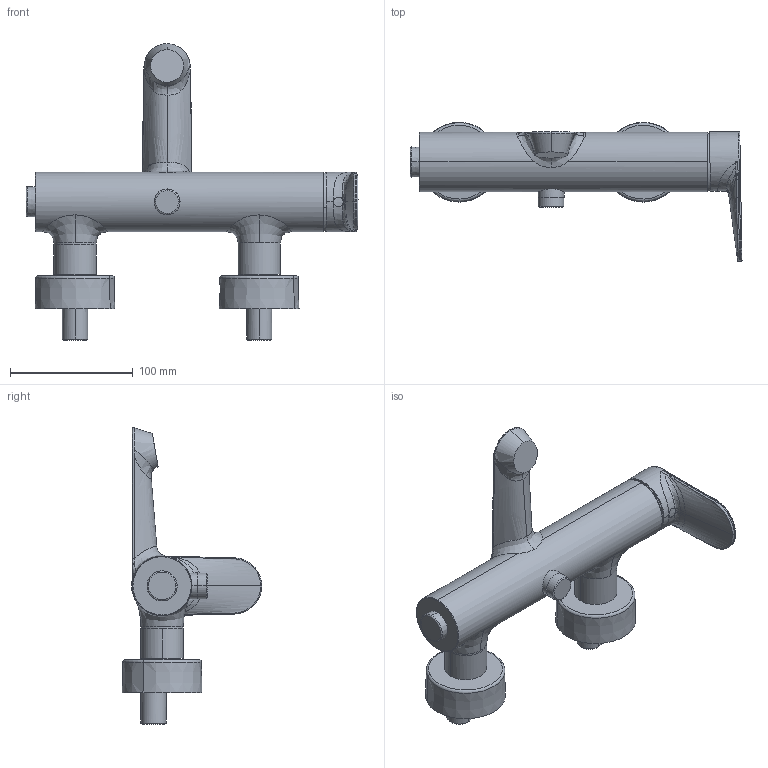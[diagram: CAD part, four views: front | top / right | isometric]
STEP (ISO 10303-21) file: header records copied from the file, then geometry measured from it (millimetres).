
FILE_DESCRIPTION (( 'STEP AP203' ), '1' );
FILE_NAME ('37442207(2025).STEP', '2025-01-22T13:11:22', ( '' ), ( '' ), 'SwSTEP 2.0', 'SolidWorks 2024', '' );
FILE_SCHEMA (( 'CONFIG_CONTROL_DESIGN' ));
Length unit declared in the file: millimetre
Products named in the file (1): 37442207(2025)
Bounding box: 270.5 x 113.69 x 241.6 mm (x, y, z)
Volume: 713013.5 mm3; surface area: 113295 mm2
Topology: 1 solids, 2 shells, 177 faces, 431 edges, 273 vertices
Faces by surface type: bspline 81, cylinder 32, plane 32, cone 28, torus 4
Entity records: 16891 total; most frequent: CARTESIAN_POINT 13238, ORIENTED_EDGE 860, DIRECTION 542, EDGE_CURVE 430, VERTEX_POINT 273, AXIS2_PLACEMENT_3D 223, B_SPLINE_CURVE_WITH_KNOTS 200, EDGE_LOOP 195
